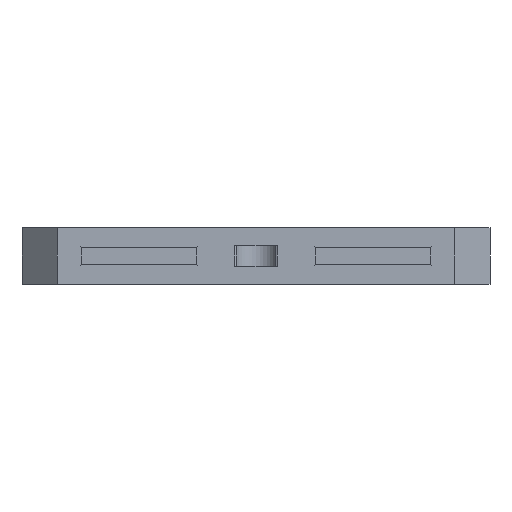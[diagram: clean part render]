
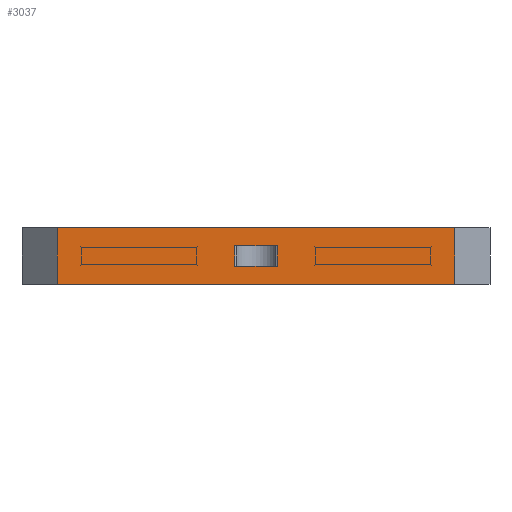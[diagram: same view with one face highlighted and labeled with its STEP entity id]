
A CAD part, front view. The second image highlights one B-rep face of the part: STEP entity #3037.
In plain terms, the highlighted planar face has unit normal (0, -1, 0).
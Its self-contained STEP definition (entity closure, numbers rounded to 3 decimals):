
#106 = VERTEX_POINT('',#107);
#107 = CARTESIAN_POINT('',(1390.2,-686.,0.));
#113 = EDGE_CURVE('',#106,#114,#116,.T.);
#114 = VERTEX_POINT('',#115);
#115 = CARTESIAN_POINT('',(1437.8,-686.,0.));
#116 = LINE('',#117,#118);
#117 = CARTESIAN_POINT('',(1390.2,-686.,0.));
#118 = VECTOR('',#119,1.);
#119 = DIRECTION('',(1.,0.,0.));
#1281 = VERTEX_POINT('',#1282);
#1282 = CARTESIAN_POINT('',(1390.2,-686.,6.8));
#1288 = EDGE_CURVE('',#1281,#1289,#1291,.T.);
#1289 = VERTEX_POINT('',#1290);
#1290 = CARTESIAN_POINT('',(1437.8,-686.,6.8));
#1291 = LINE('',#1292,#1293);
#1292 = CARTESIAN_POINT('',(1390.2,-686.,6.8));
#1293 = VECTOR('',#1294,1.);
#1294 = DIRECTION('',(1.,0.,0.));
#3008 = EDGE_CURVE('',#114,#1289,#3009,.T.);
#3009 = LINE('',#3010,#3011);
#3010 = CARTESIAN_POINT('',(1437.8,-686.,0.));
#3011 = VECTOR('',#3012,1.);
#3012 = DIRECTION('',(0.,0.,1.));
#3027 = EDGE_CURVE('',#1281,#106,#3028,.T.);
#3028 = LINE('',#3029,#3030);
#3029 = CARTESIAN_POINT('',(1390.2,-686.,6.8));
#3030 = VECTOR('',#3031,1.);
#3031 = DIRECTION('',(-0.,-0.,-1.));
#3037 = ADVANCED_FACE('',(#3038,#3072),#3078,.F.);
#3038 = FACE_BOUND('',#3039,.T.);
#3039 = EDGE_LOOP('',(#3040,#3050,#3058,#3066));
#3040 = ORIENTED_EDGE('',*,*,#3041,.T.);
#3041 = EDGE_CURVE('',#3042,#3044,#3046,.T.);
#3042 = VERTEX_POINT('',#3043);
#3043 = CARTESIAN_POINT('',(1411.433,-686.,4.6));
#3044 = VERTEX_POINT('',#3045);
#3045 = CARTESIAN_POINT('',(1416.567,-686.,4.6));
#3046 = LINE('',#3047,#3048);
#3047 = CARTESIAN_POINT('',(1411.433,-686.,4.6));
#3048 = VECTOR('',#3049,1.);
#3049 = DIRECTION('',(1.,0.,0.));
#3050 = ORIENTED_EDGE('',*,*,#3051,.F.);
#3051 = EDGE_CURVE('',#3052,#3044,#3054,.T.);
#3052 = VERTEX_POINT('',#3053);
#3053 = CARTESIAN_POINT('',(1416.567,-686.,2.2));
#3054 = LINE('',#3055,#3056);
#3055 = CARTESIAN_POINT('',(1416.567,-686.,2.2));
#3056 = VECTOR('',#3057,1.);
#3057 = DIRECTION('',(0.,0.,1.));
#3058 = ORIENTED_EDGE('',*,*,#3059,.F.);
#3059 = EDGE_CURVE('',#3060,#3052,#3062,.T.);
#3060 = VERTEX_POINT('',#3061);
#3061 = CARTESIAN_POINT('',(1411.433,-686.,2.2));
#3062 = LINE('',#3063,#3064);
#3063 = CARTESIAN_POINT('',(1411.433,-686.,2.2));
#3064 = VECTOR('',#3065,1.);
#3065 = DIRECTION('',(1.,0.,0.));
#3066 = ORIENTED_EDGE('',*,*,#3067,.F.);
#3067 = EDGE_CURVE('',#3042,#3060,#3068,.T.);
#3068 = LINE('',#3069,#3070);
#3069 = CARTESIAN_POINT('',(1411.433,-686.,4.6));
#3070 = VECTOR('',#3071,1.);
#3071 = DIRECTION('',(0.,0.,-1.));
#3072 = FACE_BOUND('',#3073,.T.);
#3073 = EDGE_LOOP('',(#3074,#3075,#3076,#3077));
#3074 = ORIENTED_EDGE('',*,*,#3008,.T.);
#3075 = ORIENTED_EDGE('',*,*,#1288,.F.);
#3076 = ORIENTED_EDGE('',*,*,#3027,.T.);
#3077 = ORIENTED_EDGE('',*,*,#113,.T.);
#3078 = PLANE('',#3079);
#3079 = AXIS2_PLACEMENT_3D('',#3080,#3081,#3082);
#3080 = CARTESIAN_POINT('',(1407.962,-686.,6.8));
#3081 = DIRECTION('',(0.,1.,0.));
#3082 = DIRECTION('',(0.,0.,1.));
